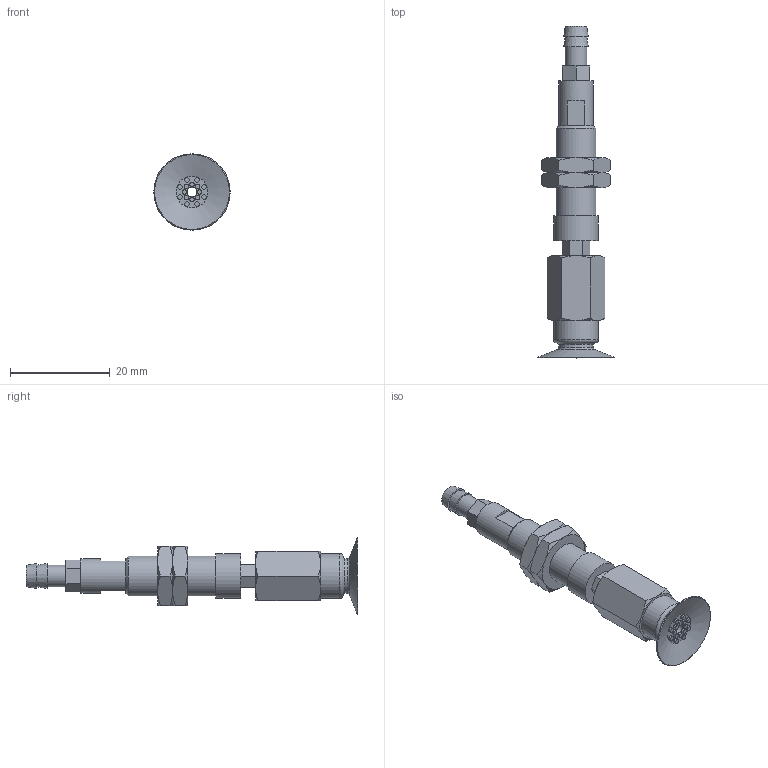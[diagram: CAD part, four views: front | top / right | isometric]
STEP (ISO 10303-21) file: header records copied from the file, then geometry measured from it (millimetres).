
FILE_DESCRIPTION(('STEP AP203'),'1');
FILE_NAME('-T.stp','2025-08-12T08:16:33',(' '),(' '),'Spatial InterOp 3D',' ',' ');
FILE_SCHEMA(('CONFIG_CONTROL_DESIGN'));
Length unit declared in the file: millimetre
Products named in the file (7): BNABPATH-15A-3-※-T; NAPATH-10A-3--F; Nut-10A-S; CONNECTOR-10A-3-T-PA; BPAG-15A-※; NAPATH-10A-3--M; ADAPTER
Assembly tree (7 placements, depth 2):
  BNABPATH-15A-3-※-T
    NAPATH-10A-3--F
    Nut-10A-S  x2
    CONNECTOR-10A-3-T-PA
    BPAG-15A-※
    NAPATH-10A-3--M
    ADAPTER
Bounding box: 15.3 x 66.5 x 15.3 mm (x, y, z)
Volume: 3583.9 mm3; surface area: 4586.6 mm2
Topology: 7 solids, 7 shells, 172 faces, 346 edges, 215 vertices
Faces by surface type: plane 81, cone 48, cylinder 34, torus 9
Full cylindrical faces by diameter (mm): 0.9 x16, 2 x3, 3 x1, 4 x2, 4.134 x1, 4.3 x1, 5 x1, 6 x2, 7 x2, 7.188 x2, 8 x1, 9 x2
Entity records: 4082 total; most frequent: CARTESIAN_POINT 861, DIRECTION 616, ORIENTED_EDGE 474, AXIS2_PLACEMENT_3D 270, EDGE_LOOP 240, EDGE_CURVE 237, FACE_OUTER_BOUND 191, VERTEX_POINT 179
